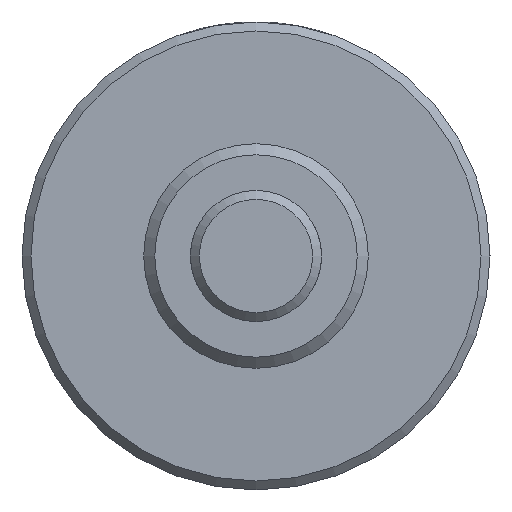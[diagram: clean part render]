
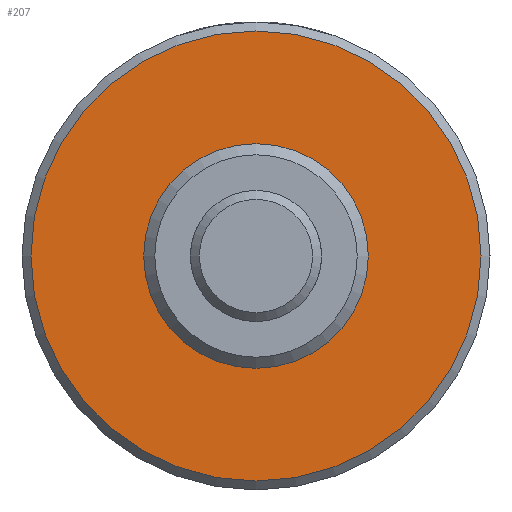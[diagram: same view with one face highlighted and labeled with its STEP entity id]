
A CAD part, left-side view. The second image highlights one B-rep face of the part: STEP entity #207.
In plain terms, the highlighted planar face has unit normal (-1, 0, 0).
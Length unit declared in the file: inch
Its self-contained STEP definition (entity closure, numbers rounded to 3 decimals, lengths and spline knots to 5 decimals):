
#207 = ADVANCED_FACE( '', ( #427, #428 ), #429, .F. );
#427 = FACE_OUTER_BOUND( '', #647, .T. );
#428 = FACE_BOUND( '', #648, .T. );
#429 = PLANE( '', #649 );
#647 = EDGE_LOOP( '', ( #972 ) );
#648 = EDGE_LOOP( '', ( #973 ) );
#649 = AXIS2_PLACEMENT_3D( '', #974, #975, #976 );
#972 = ORIENTED_EDGE( '', *, *, #1130, .F. );
#973 = ORIENTED_EDGE( '', *, *, #1105, .T. );
#974 = CARTESIAN_POINT( '', ( 0.625, 0.375, 0. ) );
#975 = DIRECTION( '', ( 1., 0., 0. ) );
#976 = DIRECTION( '', ( 0., 0., -1. ) );
#1105 = EDGE_CURVE( '', #1262, #1262, #1263, .T. );
#1130 = EDGE_CURVE( '', #1302, #1302, #1303, .T. );
#1262 = VERTEX_POINT( '', #1530 );
#1263 = CIRCLE( '', #1531, 0.375 );
#1302 = VERTEX_POINT( '', #1581 );
#1303 = CIRCLE( '', #1582, 0.7515 );
#1530 = CARTESIAN_POINT( '', ( 0.625, 0., -0.375 ) );
#1531 = AXIS2_PLACEMENT_3D( '', #1807, #1808, #1809 );
#1581 = CARTESIAN_POINT( '', ( 0.625, 0., -0.7515 ) );
#1582 = AXIS2_PLACEMENT_3D( '', #1842, #1843, #1844 );
#1807 = CARTESIAN_POINT( '', ( 0.625, 0., 0. ) );
#1808 = DIRECTION( '', ( 1., 0., 0. ) );
#1809 = DIRECTION( '', ( 0., 0., -1. ) );
#1842 = CARTESIAN_POINT( '', ( 0.625, 0., 0. ) );
#1843 = DIRECTION( '', ( 1., 0., 0. ) );
#1844 = DIRECTION( '', ( 0., 0., -1. ) );
